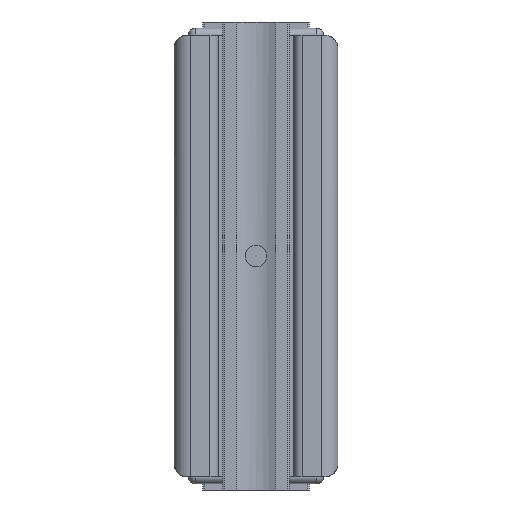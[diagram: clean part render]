
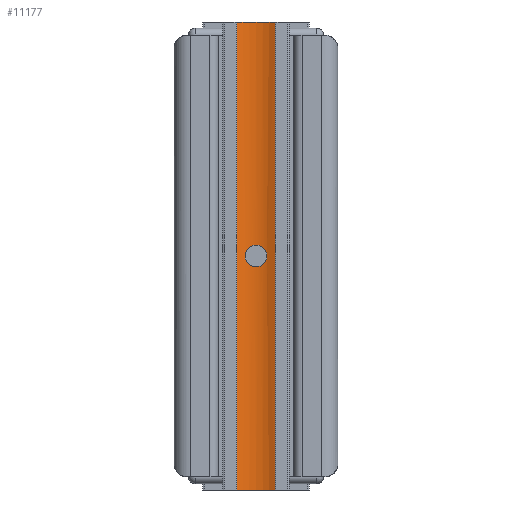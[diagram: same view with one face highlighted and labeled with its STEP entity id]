
A CAD part, front view. The second image highlights one B-rep face of the part: STEP entity #11177.
In plain terms, the highlighted cylindrical face has radius 12 mm (diameter 24 mm), a partial arc.
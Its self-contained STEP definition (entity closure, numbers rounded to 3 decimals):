
#306=FACE_BOUND('',#1728,.T.);
#499=B_SPLINE_CURVE_WITH_KNOTS('',3,(#16714,#16715,#16716,#16717,#16718,
#16719,#16720,#16721,#16722,#16723,#16724,#16725,#16726,#16727,#16728,#16729,
#16730,#16731,#16732,#16733,#16734,#16735,#16736,#16737,#16738,#16739,#16740,
#16741,#16742,#16743,#16744,#16745,#16746,#16747),.UNSPECIFIED.,.T.,.F.,
(4,2,2,2,2,2,2,2,2,2,2,2,2,2,2,2,4),(0.,0.123,0.246,
0.369,0.492,0.615,0.739,
0.862,0.985,1.108,1.231,1.354,
1.477,1.6,1.723,1.846,1.969),
 .UNSPECIFIED.);
#815=CYLINDRICAL_SURFACE('',#11938,12.);
#1040=FACE_OUTER_BOUND('',#1727,.T.);
#1727=EDGE_LOOP('',(#7170,#7171,#7172,#7173));
#1728=EDGE_LOOP('',(#7174));
#2472=LINE('',#16826,#3009);
#2473=LINE('',#16828,#3010);
#3009=VECTOR('',#13473,10.);
#3010=VECTOR('',#13476,10.);
#3478=CIRCLE('',#11853,12.);
#3492=CIRCLE('',#11868,12.);
#4212=VERTEX_POINT('',#16482);
#4213=VERTEX_POINT('',#16484);
#4238=VERTEX_POINT('',#16535);
#4239=VERTEX_POINT('',#16537);
#4279=VERTEX_POINT('',#16713);
#5225=EDGE_CURVE('',#4213,#4212,#3478,.T.);
#5251=EDGE_CURVE('',#4239,#4238,#3492,.T.);
#5316=EDGE_CURVE('',#4279,#4279,#499,.T.);
#5345=EDGE_CURVE('',#4238,#4213,#2472,.T.);
#5346=EDGE_CURVE('',#4239,#4212,#2473,.T.);
#7170=ORIENTED_EDGE('',*,*,#5225,.T.);
#7171=ORIENTED_EDGE('',*,*,#5346,.F.);
#7172=ORIENTED_EDGE('',*,*,#5251,.T.);
#7173=ORIENTED_EDGE('',*,*,#5345,.T.);
#7174=ORIENTED_EDGE('',*,*,#5316,.T.);
#11177=ADVANCED_FACE('',(#1040,#306),#815,.F.);
#11853=AXIS2_PLACEMENT_3D('',#16485,#13234,#13235);
#11868=AXIS2_PLACEMENT_3D('',#16538,#13276,#13277);
#11938=AXIS2_PLACEMENT_3D('',#16827,#13474,#13475);
#13234=DIRECTION('center_axis',(0.,0.,-1.));
#13235=DIRECTION('ref_axis',(0.475,0.88,0.));
#13276=DIRECTION('center_axis',(0.,0.,1.));
#13277=DIRECTION('ref_axis',(0.475,0.88,0.));
#13473=DIRECTION('',(0.,0.,-1.));
#13474=DIRECTION('center_axis',(0.,0.,-1.));
#13475=DIRECTION('ref_axis',(0.475,0.88,0.));
#13476=DIRECTION('',(0.,0.,-1.));
#16482=CARTESIAN_POINT('',(5.7,-10.94,-70.));
#16484=CARTESIAN_POINT('',(-5.7,-10.94,-70.));
#16485=CARTESIAN_POINT('Origin',(0.,-21.5,-70.));
#16535=CARTESIAN_POINT('',(-5.7,-10.94,70.));
#16537=CARTESIAN_POINT('',(5.7,-10.94,70.));
#16538=CARTESIAN_POINT('Origin',(0.,-21.5,70.));
#16713=CARTESIAN_POINT('',(3.25,-9.948,0.));
#16714=CARTESIAN_POINT('Ctrl Pts',(3.25,-9.948,0.));
#16715=CARTESIAN_POINT('Ctrl Pts',(3.25,-9.948,-0.41));
#16716=CARTESIAN_POINT('Ctrl Pts',(3.168,-9.924,-0.847));
#16717=CARTESIAN_POINT('Ctrl Pts',(2.835,-9.838,-1.647));
#16718=CARTESIAN_POINT('Ctrl Pts',(2.586,-9.778,-2.011));
#16719=CARTESIAN_POINT('Ctrl Pts',(2.011,-9.666,-2.585));
#16720=CARTESIAN_POINT('Ctrl Pts',(1.647,-9.607,-2.835));
#16721=CARTESIAN_POINT('Ctrl Pts',(0.846,-9.523,
-3.168));
#16722=CARTESIAN_POINT('Ctrl Pts',(0.41,-9.5,-3.25));
#16723=CARTESIAN_POINT('Ctrl Pts',(-0.41,-9.5,-3.25));
#16724=CARTESIAN_POINT('Ctrl Pts',(-0.846,-9.523,
-3.168));
#16725=CARTESIAN_POINT('Ctrl Pts',(-1.647,-9.607,
-2.835));
#16726=CARTESIAN_POINT('Ctrl Pts',(-2.011,-9.666,
-2.585));
#16727=CARTESIAN_POINT('Ctrl Pts',(-2.586,-9.778,
-2.011));
#16728=CARTESIAN_POINT('Ctrl Pts',(-2.835,-9.838,
-1.647));
#16729=CARTESIAN_POINT('Ctrl Pts',(-3.168,-9.924,
-0.847));
#16730=CARTESIAN_POINT('Ctrl Pts',(-3.25,-9.948,
-0.41));
#16731=CARTESIAN_POINT('Ctrl Pts',(-3.25,-9.948,
0.41));
#16732=CARTESIAN_POINT('Ctrl Pts',(-3.168,-9.924,
0.847));
#16733=CARTESIAN_POINT('Ctrl Pts',(-2.835,-9.838,
1.647));
#16734=CARTESIAN_POINT('Ctrl Pts',(-2.586,-9.778,
2.011));
#16735=CARTESIAN_POINT('Ctrl Pts',(-2.011,-9.666,
2.585));
#16736=CARTESIAN_POINT('Ctrl Pts',(-1.647,-9.607,
2.835));
#16737=CARTESIAN_POINT('Ctrl Pts',(-0.846,-9.523,
3.168));
#16738=CARTESIAN_POINT('Ctrl Pts',(-0.41,-9.5,3.25));
#16739=CARTESIAN_POINT('Ctrl Pts',(0.41,-9.5,3.25));
#16740=CARTESIAN_POINT('Ctrl Pts',(0.846,-9.523,
3.168));
#16741=CARTESIAN_POINT('Ctrl Pts',(1.647,-9.607,2.835));
#16742=CARTESIAN_POINT('Ctrl Pts',(2.011,-9.666,2.585));
#16743=CARTESIAN_POINT('Ctrl Pts',(2.586,-9.778,2.011));
#16744=CARTESIAN_POINT('Ctrl Pts',(2.835,-9.838,1.647));
#16745=CARTESIAN_POINT('Ctrl Pts',(3.168,-9.924,0.847));
#16746=CARTESIAN_POINT('Ctrl Pts',(3.25,-9.948,0.41));
#16747=CARTESIAN_POINT('Ctrl Pts',(3.25,-9.948,0.));
#16826=CARTESIAN_POINT('',(-5.7,-10.94,25.));
#16827=CARTESIAN_POINT('Origin',(0.,-21.5,25.));
#16828=CARTESIAN_POINT('',(5.7,-10.94,25.));
